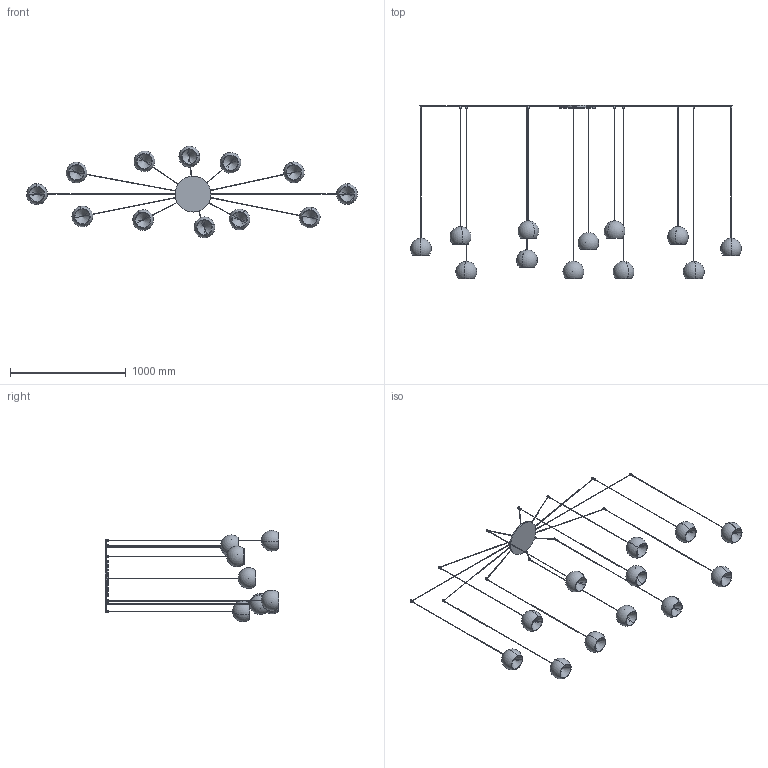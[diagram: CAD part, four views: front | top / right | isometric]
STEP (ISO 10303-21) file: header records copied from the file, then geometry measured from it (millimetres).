
FILE_DESCRIPTION (( 'STEP AP203' ), '1' );
FILE_NAME ('CHRA3-00-CHERRY_12 sospensione.STEP', '2025-05-06T06:17:03', ( '' ), ( '' ), 'SwSTEP 2.0', 'SolidWorks 2022', '' );
FILE_SCHEMA (( 'CONFIG_CONTROL_DESIGN' ));
Length unit declared in the file: millimetre
Products named in the file (8): CHERRY_Lampada singola_Cherry 180 | H=1500; CHERRY_Lampada singola_Cherry 180 | H=1850; CHERRY_Lampada singola_Cherry 180 | H=1800; CHRA3-00-CHERRY_12 sospensione; CHERRY_Lampada singola_Cherry 180 | H=1700; CHERRY_Lampada singola_Cherry 180 | H=1750; CHERRY_Rosone_Cherry 12 (x 4600)<A macchina>; CHERRY_Lampada singola_Cherry 180 | H=1600
Assembly tree (13 placements, depth 2):
  CHRA3-00-CHERRY_12 sospensione
    CHERRY_Rosone_Cherry 12 (x 4600)<A macchina>
    CHERRY_Lampada singola_Cherry 180 | H=1700  x2
    CHERRY_Lampada singola_Cherry 180 | H=1800  x2
    CHERRY_Lampada singola_Cherry 180 | H=1850  x2
    CHERRY_Lampada singola_Cherry 180 | H=1500  x4
    CHERRY_Lampada singola_Cherry 180 | H=1750
    CHERRY_Lampada singola_Cherry 180 | H=1600
Bounding box: 2861 x 1500 x 790.04 mm (x, y, z)
Volume: 3766024 mm3; surface area: 2984154.9 mm2
Topology: 61 solids, 61 shells, 449 faces, 1070 edges, 672 vertices
Faces by surface type: cylinder 206, plane 147, sphere 48, cone 48
Entity records: 8038 total; most frequent: CARTESIAN_POINT 1697, DIRECTION 1226, ORIENTED_EDGE 1012, AXIS2_PLACEMENT_3D 545, EDGE_CURVE 506, VERTEX_POINT 336, EDGE_LOOP 282, CIRCLE 272
